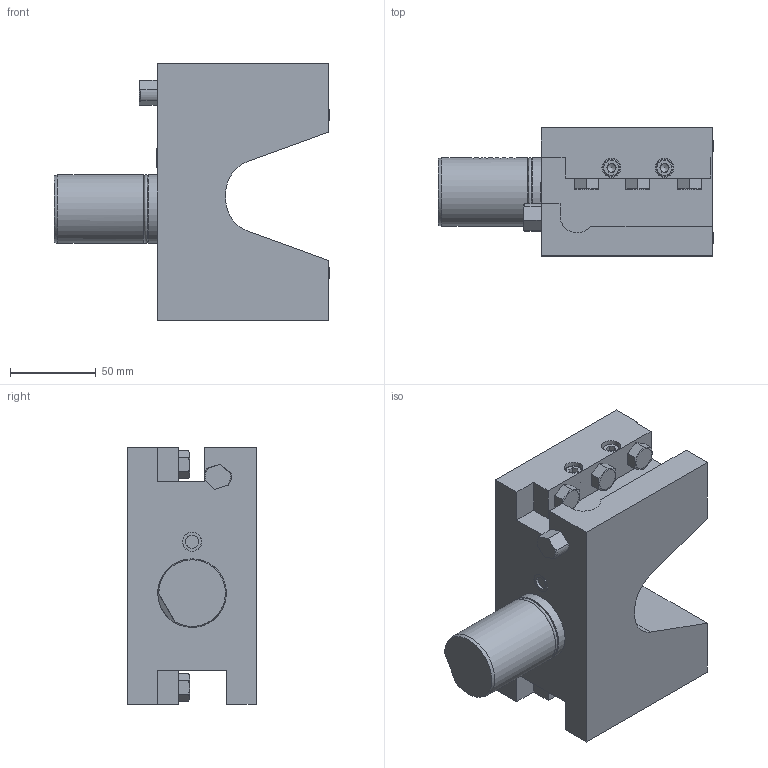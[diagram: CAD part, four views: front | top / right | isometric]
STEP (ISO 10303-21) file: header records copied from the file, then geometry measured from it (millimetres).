
FILE_DESCRIPTION(/* description */ (''),/* implementation_level */ '2;1');
FILE_NAME(/* name */ '117988',/* time_stamp */ '2020-12-22T07:39:33+01:00',/* author */ (''),/* organization */ (''),/* preprocessor_version */ 'ST-DEVELOPER v16.5',/* originating_system */ 'HiCAD 2017 2201.0 Build 268',/* authorisation */ '');
FILE_SCHEMA (('AUTOMOTIVE_DESIGN { 1 0 10303 214 1 1 1 1 }'));
Length unit declared in the file: millimetre
Products named in the file (2): Root; Teil
Assembly tree (1 placements, depth 2):
  Root
    Teil
Bounding box: 160.66 x 75.1 x 150 mm (x, y, z)
Volume: 851786.6 mm3; surface area: 87941.9 mm2
Topology: 2 solids, 6 shells, 368 faces, 907 edges, 600 vertices
Faces by surface type: plane 266, bspline 47, cylinder 31, cone 15, torus 5, sphere 4
Full cylindrical faces by diameter (mm): 6.6 x4, 7.65 x1, 10 x4, 11 x4, 11.01 x1, 11.1 x1, 36.5 x2, 40 x2
Entity records: 21842 total; most frequent: CARTESIAN_POINT 4352, PRESENTATION_STYLE_ASSIGNMENT 1887, OVER_RIDING_STYLED_ITEM 1886, DRAUGHTING_PRE_DEFINED_CURVE_FONT 1700, CURVE_STYLE 1700, ORIENTED_EDGE 1700, DIRECTION 1490, COLOUR_RGB 1463
